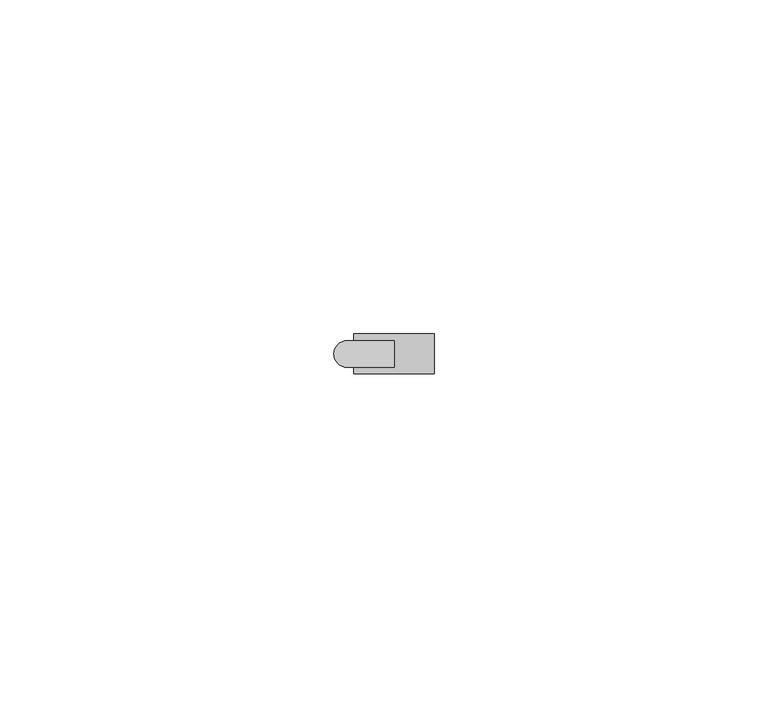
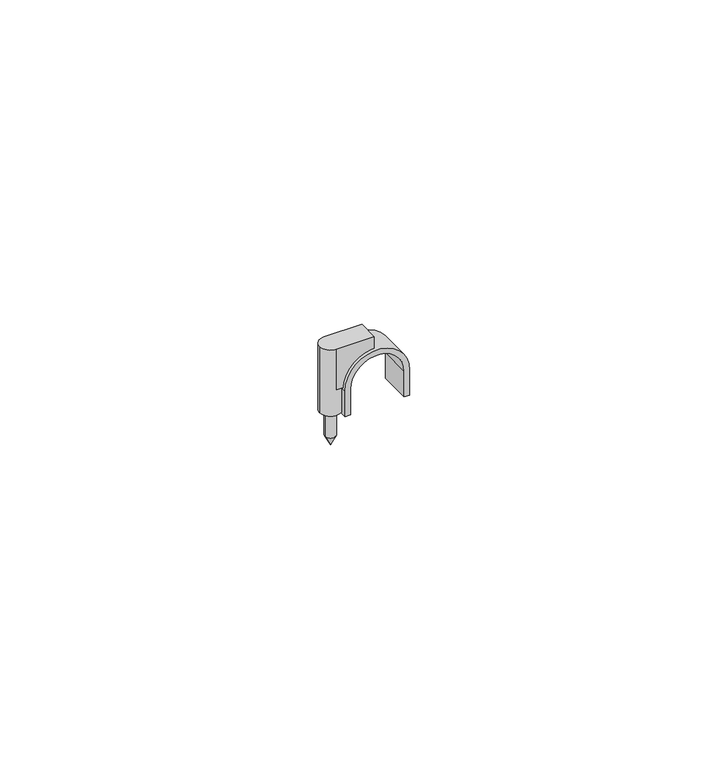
"""IFC4 building model written with IfcOpenShell, lengths in millimetres: cable carrier fitting geometry, КНС_СкобаПластиковаяСГвоздем_DKC : д.9 - 10мм."""

from ifc_helpers import new_model, si_unit, point, frame, frame_2d, origin, place, context, project, spatial, polyline, circle_curve, trimmed, segment, composite_curve, outline, extrude, source, transform, mapped, element, save
from ifc_brep_helpers import plane_surface, cylinder_surface, revolved_surface, advanced_brep


def cable_carrier_fitting_039d6c27(model_context):
    return source(origin(), model_context, "Body", "SolidModel", [
        advanced_brep(
        [(-6.0, 0.0, 0.0), (-8.0, 0.0, 0.0), (-7.0, 0.0, 0.0), (-6.0, 0.0, -5.0), (-8.0, 0.0, -5.0), (-7.0, 0.0, -7.0)],
        [
            (0, 1, circle_curve(frame((-7.0, 0.0, 0.0), z_axis=(0.0, 0.0, 1.0), x_axis=(-1.0, 0.0, 0.0)), 1.0)),
            (1, 2),
            (2, 0),
            (1, 0, circle_curve(frame((-7.0, 0.0, 0.0), z_axis=(0.0, 0.0, 1.0), x_axis=(-1.0, 0.0, 0.0)), 1.0)),
            (3, 4, circle_curve(frame((-7.0, 0.0, -5.0), z_axis=(0.0, 0.0, 1.0), x_axis=(-1.0, 0.0, 0.0)), 1.0)),
            (4, 1),
            (0, 3),
            (4, 3, circle_curve(frame((-7.0, 0.0, -5.0), z_axis=(0.0, 0.0, 1.0), x_axis=(-1.0, 0.0, 0.0)), 1.0)),
            (5, 4),
            (3, 5),
        ],
        [
            plane_surface(frame((-7.0, 0.0, 0.0), z_axis=(0.0, 0.0, 1.0), x_axis=(-1.0, 0.0, 0.0))),
            cylinder_surface(frame((-7.0, 0.0, 24.2919306), z_axis=(0.0, 0.0, -1.0), x_axis=(-1.0, 0.0, 0.0)), 1.0),
            revolved_surface(polyline([(-8.0, 0.0, -5.0), (-7.0, 0.0, -7.0)]), (-7.0, 0.0, 24.2919306), (0.0, 0.0, -1.0)),
        ],
        [
            (0, [[1, 2, 3]]),
            (0, [[4, -3, -2]]),
            (1, [[5, 6, -1, 7]]),
            (1, [[8, -7, -4, -6]]),
            (2, [[9, -5, 10]]),
            (2, [[-10, -8, -9]]),
        ],
    ),
        advanced_brep(
        [(-5.0, -2.0, 5.0), (0.0, -2.0, 10.0), (0.0, -2.0, 13.0), (-7.0, -2.0, 13.0), (-7.0, -2.0, 5.0), (-5.0, 2.0, 5.0), (-7.0, 2.0, 5.0), (-7.0, 2.0, 13.0), (0.0, 2.0, 13.0), (0.0, 2.0, 10.0), (-5.0, 0.0, 5.0), (-9.0, 0.0, 13.0), (-5.0, 0.0, 0.0), (-9.0, 0.0, 0.0), (-7.0, 0.0, 0.0)],
        [
            (0, 1, circle_curve(frame((0.0, -2.0, 5.0), z_axis=(0.0, 1.0, 0.0), x_axis=(1.0, 0.0, 0.0)), 5.0)),
            (1, 2),
            (2, 3),
            (3, 4),
            (4, 0),
            (5, 6),
            (6, 7),
            (7, 8),
            (8, 9),
            (9, 5, circle_curve(frame((0.0, 2.0, 5.0), z_axis=(0.0, -1.0, 0.0), x_axis=(1.0, 0.0, 0.0)), 5.0)),
            (0, 10),
            (10, 5),
            (9, 1),
            (8, 2),
            (7, 11, circle_curve(frame((-7.0, 0.0, 13.0), z_axis=(0.0, 0.0, 1.0), x_axis=(-1.0, 0.0, 0.0)), 2.0)),
            (11, 3, circle_curve(frame((-7.0, 0.0, 13.0), z_axis=(0.0, 0.0, 1.0), x_axis=(-1.0, 0.0, 0.0)), 2.0)),
            (4, 10, circle_curve(frame((-7.0, 0.0, 5.0), z_axis=(0.0, 0.0, 1.0), x_axis=(-1.0, 0.0, 0.0)), 2.0)),
            (10, 6, circle_curve(frame((-7.0, 0.0, 5.0), z_axis=(0.0, 0.0, 1.0), x_axis=(-1.0, 0.0, 0.0)), 2.0)),
            (12, 13, circle_curve(frame((-7.0, 0.0, 0.0), z_axis=(0.0, 0.0, 1.0), x_axis=(-1.0, 0.0, 0.0)), 2.0)),
            (13, 11),
            (10, 12),
            (13, 12, circle_curve(frame((-7.0, 0.0, 0.0), z_axis=(0.0, 0.0, 1.0), x_axis=(-1.0, 0.0, 0.0)), 2.0)),
            (12, 14),
            (14, 13),
        ],
        [
            plane_surface(frame((5.0, -2.0, 5.0), z_axis=(0.0, -1.0, 0.0), x_axis=(0.0, 0.0, -1.0))),
            plane_surface(frame((5.0, 2.0, 5.0), z_axis=(0.0, 1.0, 0.0), x_axis=(0.0, 0.0, 1.0))),
            revolved_surface(polyline([(5.0, 2.0, 5.0), (5.0, -2.0, 5.0)]), (0.0, 2.0, 5.0), (0.0, 1.0, 0.0)),
            plane_surface(frame((0.0, -2.0, 10.0), z_axis=(1.0, 0.0, 0.0), x_axis=(0.0, 1.0, 0.0))),
            plane_surface(frame((0.0, -2.0, 13.0), z_axis=(0.0, 0.0, 1.0), x_axis=(0.0, 1.0, 0.0))),
            plane_surface(frame((-7.0, -2.0, 5.0), z_axis=(0.0, 0.0, -1.0), x_axis=(0.0, 1.0, 0.0))),
            cylinder_surface(frame((-7.0, 0.0, 24.2919306), z_axis=(0.0, 0.0, -1.0), x_axis=(-1.0, 0.0, 0.0)), 2.0),
            plane_surface(frame((-7.0, 0.0, 0.0), z_axis=(0.0, 0.0, -1.0), x_axis=(-1.0, 0.0, 0.0))),
        ],
        [
            (0, [[1, 2, 3, 4, 5]]),
            (1, [[6, 7, 8, 9, 10]]),
            (2, [[-1, 11, 12, -10, 13]]),
            (3, [[-2, -13, -9, 14]]),
            (4, [[-3, -14, -8, 15, 16]]),
            (5, [[-5, 17, -11]]),
            (5, [[-6, -12, 18]]),
            (6, [[19, 20, -15, -7, -18, 21]]),
            (6, [[-20, 22, -21, -17, -4, -16]]),
            (7, [[-19, 23, 24]]),
            (7, [[-22, -24, -23]]),
        ],
    ),
        extrude(outline(composite_curve([segment(polyline([(5.0, 5.0), (0.0, 5.0), (0.0, 6.0), (5.0, 6.0)]), True, "CONTINUOUS"), segment(trimmed(circle_curve(frame_2d((5.0, 0.0)), 6.0), [point((5.0, 6.0))], [point((5.0, -6.0))], False, "CARTESIAN"), True, "CONTINUOUS"), segment(polyline([(5.0, -6.0), (0.0, -6.0), (0.0, -5.0), (5.0, -5.0)]), True, "CONTINUOUS"), segment(trimmed(circle_curve(frame_2d((5.0, 0.0)), 5.0), [point((5.0, -5.0))], [point((5.0, 5.0))], True, "CARTESIAN"), True, "CONTINUOUS")], self_intersect=False)), frame((0.0, -3.0, 0.0), z_axis=(0.0, 1.0, 0.0), x_axis=(0.0, 0.0, 1.0)), (0.0, 0.0, 1.0), 6.0),
    ])


if __name__ == "__main__":
    model = new_model("IFC4")
    model_context = context("Model", 3, world=origin())
    ifc_project = project(units=[si_unit("LENGTHUNIT", "METRE", prefix="MILLI")], contexts=[model_context])
    site = spatial("IfcSite", under=ifc_project)
    building = spatial("IfcBuilding", under=site)
    placement = place(None, origin())
    cable_carrier_fitting_shape = cable_carrier_fitting_039d6c27(model_context)
    element("IfcCableCarrierFitting", 1, ObjectType="КНС_СкобаПластиковаяСГвоздем_DKC : д.9 - 10мм", at=placement, inside=building, context=model_context, shape_type="MappedRepresentation", body=[
        mapped(cable_carrier_fitting_shape, transform((0.0, 0.0, 0.0), x_axis=(1.0, 0.0, 0.0), y_axis=(0.0, 1.0, 0.0), z_axis=(0.0, 0.0, 1.0))),
    ])
    save(model, "model.ifc")
